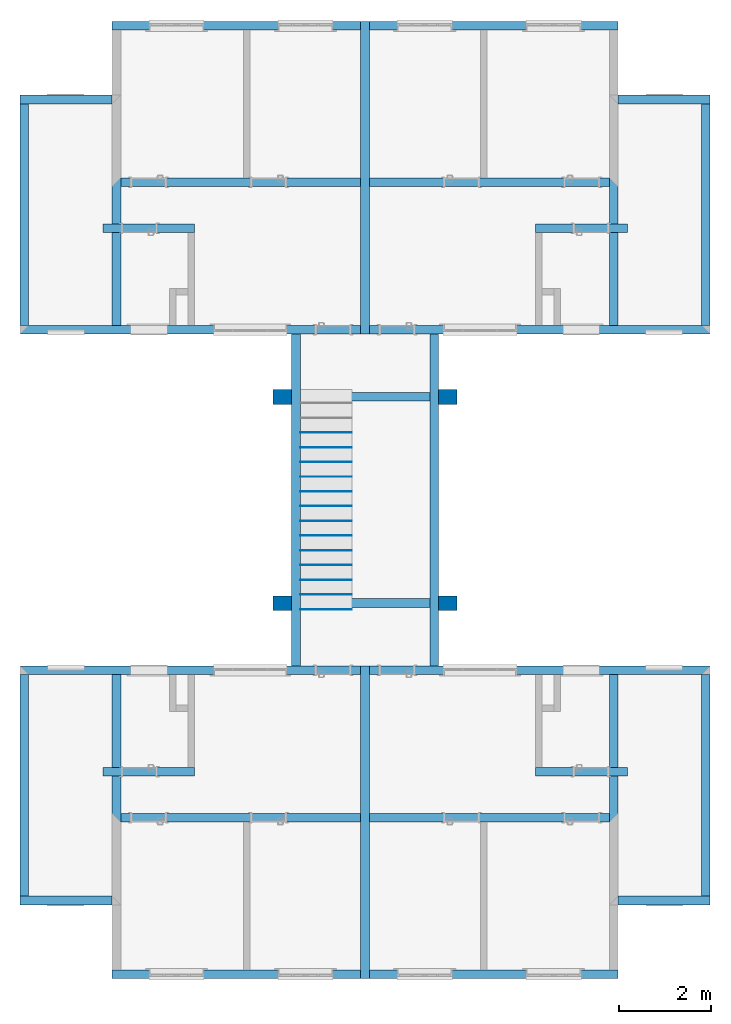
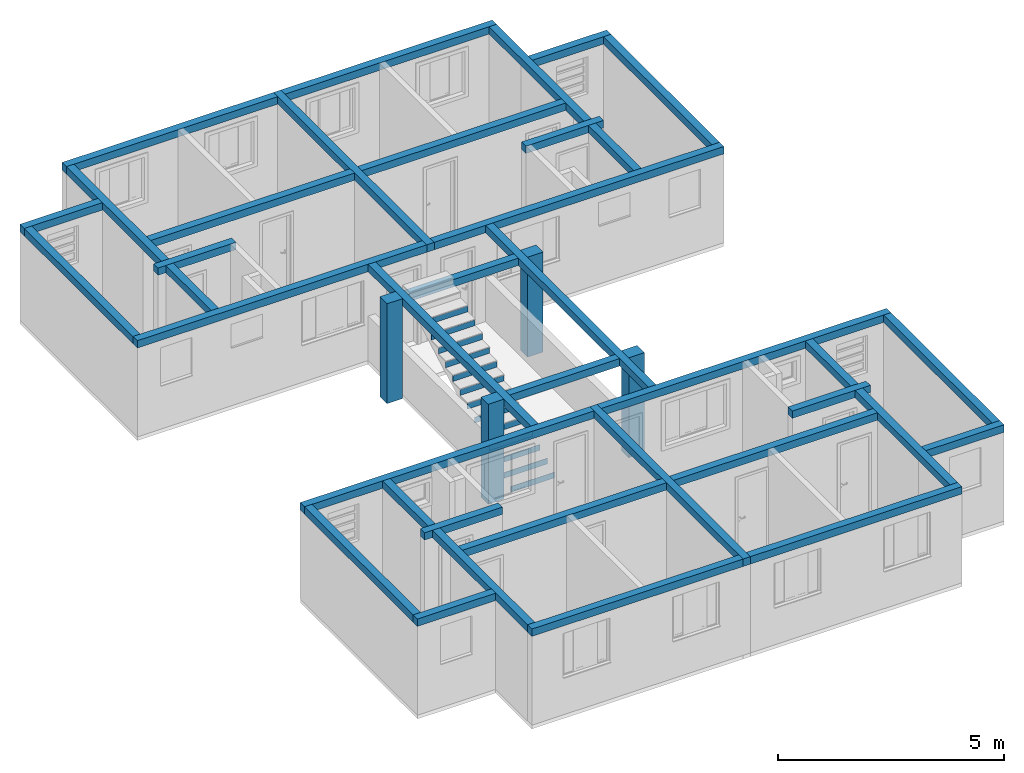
# One storey, part 1 of 47: 38 beams, 13 members, 4 columns, 1 element without a shape of its own.
"""IFC2X3 building model written with IfcOpenShell, lengths in millimetres."""

import ifcopenshell
import ifcopenshell.guid

model = None  # the IFC model being written
_history = None  # IfcOwnerHistory: only IFC2X3 demands one
_inside = {}  # id of a spatial element -> (the spatial element, [elements in it])
_under = {}  # id of a project, library or spatial element -> (it, [spatial elements below it])
_declared = {}  # id of a project -> (the project, [libraries it declares])
_typed = {}  # id of a type object -> (the type object, [elements of that type])
_made_of = {}  # id of a material, layer set ... -> (it, [elements and type objects made of it])


def new_model(schema):
    """Start an empty IFC model of exactly this schema.

    Asked for "IFC4X3", IfcOpenShell would pick the latest addendum, in which some entities
    have other attributes; the version numbers below select the first issue.
    IFC2X3 requires an IfcOwnerHistory on every rooted entity: one is made here for all.
    """
    global model, _history
    if schema == "IFC4X3":
        model = ifcopenshell.file(schema_version=(4, 3, 0, 0))
    else:
        model = ifcopenshell.file(schema=schema)
    _inside.clear()
    _under.clear()
    _declared.clear()
    _typed.clear()
    _made_of.clear()
    _history = None
    if model.schema == "IFC2X3":
        org = make("IfcOrganization", Name="unknown")
        user = make(
            "IfcPersonAndOrganization",
            ThePerson=make("IfcPerson", FamilyName="unknown"),
            TheOrganization=org,
        )
        app = make(
            "IfcApplication",
            ApplicationDeveloper=org,
            Version="unknown",
            ApplicationFullName="unknown",
            ApplicationIdentifier="unknown",
        )
        _history = make(
            "IfcOwnerHistory",
            OwningUser=user,
            OwningApplication=app,
            ChangeAction="ADDED",
            CreationDate=0,
        )
    return model


def make(cls, **values):
    """One entity of the class cls with the attributes given. An attribute that is None is left unset."""
    return model.create_entity(
        cls, **{name: value for name, value in values.items() if value is not None}
    )


def entity(cls, *values):
    """Any entity or typed value of the class cls, its attributes in the order of the schema. None: left unset."""
    e = model.create_entity(cls)
    for i, value in enumerate(values):
        if value is not None:
            e[i] = value
    return e


def rooted(cls, **values):
    """An entity with a GlobalId (a new one), such as an element, a storey or a relation."""
    return make(cls, GlobalId=ifcopenshell.guid.new(), OwnerHistory=_history, **values)


def si_unit(unit_type, name, prefix=None):
    """IfcSIUnit, for example si_unit("LENGTHUNIT", "METRE", prefix="MILLI")."""
    return make("IfcSIUnit", UnitType=unit_type, Prefix=prefix, Name=name)


def converted_unit(unit_type, name, factor, base, dimensions=None, offset=None):
    """IfcConversionBasedUnit, such as the inch: factor (a typed value) times the base unit."""
    return make(
        "IfcConversionBasedUnit"
        if offset is None
        else "IfcConversionBasedUnitWithOffset",
        ConversionOffset=offset,
        Dimensions=None
        if dimensions is None
        else entity("IfcDimensionalExponents", *dimensions),
        UnitType=unit_type,
        Name=name,
        ConversionFactor=make(
            "IfcMeasureWithUnit", ValueComponent=factor, UnitComponent=base
        ),
    )


def derived_unit(unit_type, elements):
    """IfcDerivedUnit: a product of units, each with its exponent."""
    return make(
        "IfcDerivedUnit",
        Elements=[
            make("IfcDerivedUnitElement", Unit=unit, Exponent=power)
            for unit, power in elements
        ],
        UnitType=unit_type,
    )


def money_unit(currency):
    """IfcMonetaryUnit."""
    return make("IfcMonetaryUnit", Currency=currency)


def assignment(units):
    """IfcUnitAssignment: the units of a project."""
    return None if units is None else make("IfcUnitAssignment", Units=units)


def point(xyz):
    """IfcCartesianPoint."""
    return None if xyz is None else make("IfcCartesianPoint", Coordinates=xyz)


def direction(xyz):
    """IfcDirection."""
    return None if xyz is None else make("IfcDirection", DirectionRatios=xyz)


def frame(location, z_axis=None, x_axis=None):
    """IfcAxis2Placement3D, a coordinate frame: its origin and axes. An axis left out is left unset."""
    return make(
        "IfcAxis2Placement3D",
        Location=point(location),
        Axis=direction(z_axis),
        RefDirection=direction(x_axis),
    )


def frame_2d(location, x_axis=None):
    """IfcAxis2Placement2D, a coordinate frame in the plane: its origin and x axis."""
    return make(
        "IfcAxis2Placement2D", Location=point(location), RefDirection=direction(x_axis)
    )


def origin_with_axes():
    """The frame at (0, 0, 0) with the z axis (0, 0, 1) and the x axis (1, 0, 0) written out."""
    return frame((0.0, 0.0, 0.0), z_axis=(0.0, 0.0, 1.0), x_axis=(1.0, 0.0, 0.0))


def origin_2d_with_axis():
    """The frame at (0, 0) in the plane with the x axis (1, 0) written out."""
    return frame_2d((0.0, 0.0), x_axis=(1.0, 0.0))


def place(relative_to, where):
    """IfcLocalPlacement: puts the frame where relative to a parent placement (None: the world)."""
    return make(
        "IfcLocalPlacement", PlacementRelTo=relative_to, RelativePlacement=where
    )


def context(
    kind, dimensions, precision=None, world=None, true_north=None, identifier=None
):
    """IfcGeometricRepresentationContext, for example the 3D "Model" context."""
    return make(
        "IfcGeometricRepresentationContext",
        ContextIdentifier=identifier,
        ContextType=kind,
        CoordinateSpaceDimension=dimensions,
        Precision=precision,
        WorldCoordinateSystem=world,
        TrueNorth=true_north,
    )


def subcontext(parent, identifier, kind, view, scale=None):
    """IfcGeometricRepresentationSubContext, for example "Body" below "Model"."""
    return make(
        "IfcGeometricRepresentationSubContext",
        ContextIdentifier=identifier,
        ContextType=kind,
        ParentContext=parent,
        TargetScale=scale,
        TargetView=view,
    )


def project(units=None, contexts=None):
    """IfcProject with its units and contexts."""
    return rooted(
        "IfcProject",
        Name="project",
        RepresentationContexts=contexts,
        UnitsInContext=assignment(units),
    )


def spatial(cls, under=None, at=None, **own):
    """A site, building, storey or space (cls), placed at a placement, below another one or the project."""
    s = rooted(cls, ObjectPlacement=at, **own)
    if under is not None:
        _under.setdefault(under.id(), (under, []))[1].append(s)
    return s


def profile(cls, at=None, kind="AREA", **sizes):
    """A parametric profile (cls). Its sizes go by their IFC names, for example OverallWidth=200.0."""
    return make(cls, ProfileType=kind, Position=at, **sizes)


def rectangle(**sizes):
    """IfcRectangleProfileDef."""
    return profile("IfcRectangleProfileDef", **sizes)


def extrude(swept, where, along, depth):
    """IfcExtrudedAreaSolid: the profile swept, set in the frame where, extruded along a direction by depth."""
    return make(
        "IfcExtrudedAreaSolid",
        SweptArea=swept,
        Position=where,
        ExtrudedDirection=direction(along),
        Depth=depth,
    )


def faces_of(points, faces, orient=None, outer=None):
    """IfcFace entities. A face is a list of loops; a loop is a list of indices into points, from 0.

    orient and outer hold one flag for each loop. By default every Orientation is true, the
    first loop of a face is its IfcFaceOuterBound and the others are IfcFaceBound.
    """
    made = []
    for i, loops in enumerate(faces):
        bounds = []
        for j, loop in enumerate(loops):
            is_outer = j == 0 if outer is None else outer[i][j]
            bounds.append(
                make(
                    "IfcFaceOuterBound" if is_outer else "IfcFaceBound",
                    Bound=make("IfcPolyLoop", Polygon=[points[k] for k in loop]),
                    Orientation=True if orient is None else orient[i][j],
                )
            )
        made.append(make("IfcFace", Bounds=bounds))
    return made


def faceted_brep(points, faces, orient=None, outer=None, voids=None):
    """IfcFacetedBrep: a solid bounded by flat faces; with voids (closed shells), ...WithVoids."""
    shared = [point(p) for p in points]
    hull = make("IfcClosedShell", CfsFaces=faces_of(shared, faces, orient, outer))
    if voids is None:
        return make("IfcFacetedBrep", Outer=hull)
    return make(
        "IfcFacetedBrepWithVoids",
        Outer=hull,
        Voids=[
            make(cls, CfsFaces=faces_of(shared, fs, o, b)) for cls, fs, o, b in voids
        ],
    )


def shape(context_of_items, identifier, shape_type, items):
    """IfcShapeRepresentation: the items that make up one representation, for example the "Body"."""
    return make(
        "IfcShapeRepresentation",
        ContextOfItems=context_of_items,
        RepresentationIdentifier=identifier,
        RepresentationType=shape_type,
        Items=items,
    )


def material(Name=None, Category=None):
    """IfcMaterial."""
    return make("IfcMaterial", Name=Name, Category=Category)


def made_of(thing, what):
    """Note that an element or type object is made of a material, layer set ...; save() writes the relation."""
    if what is not None:
        _made_of.setdefault(what.id(), (what, []))[1].append(thing)
    return thing


def type_object(cls, material=None, **own):
    """A type object (cls), such as IfcWallType, which elements share."""
    return made_of(rooted(cls, **own), material)


def element(
    cls,
    number,
    at=None,
    inside=None,
    cuts=None,
    type_object=None,
    material=None,
    context=None,
    identifier="Body",
    shape_type=None,
    held_by="IfcProductDefinitionShape",
    body=None,
    shapes=None,
    **own,
):
    """One element of the class cls, such as IfcWall. Its Tag is "e" and its number.

    at: its placement. inside: the storey or other place that contains it. cuts: it is an
    opening in that element (IfcRelVoidsElement). A single representation is given by context,
    identifier, shape_type and body (its items); several are given by shapes. held_by: the class
    of the entity that holds the representations. save() writes the other relations.
    """
    e = rooted(cls, Tag="e%d" % number, ObjectPlacement=at, **own)
    if body is not None:
        shapes = [shape(context, identifier, shape_type, body)]
    if shapes is not None:
        e.Representation = make(held_by, Representations=shapes)
    if inside is not None:
        _inside.setdefault(inside.id(), (inside, []))[1].append(e)
    if cuts is not None:
        rooted(
            "IfcRelVoidsElement", RelatingBuildingElement=cuts, RelatedOpeningElement=e
        )
    if type_object is not None:
        _typed.setdefault(type_object.id(), (type_object, []))[1].append(e)
    return made_of(e, material)


def aggregate(whole, parts):
    """IfcRelAggregates: a whole, such as a stair, and the parts it consists of."""
    return rooted("IfcRelAggregates", RelatingObject=whole, RelatedObjects=parts)


def save(model, path):
    """Write the relations noted so far, then the file.

    IfcRelAggregates (storeys below a building ...), IfcRelContainedInSpatialStructure (elements
    in a storey), IfcRelDefinesByType, IfcRelAssociatesMaterial and IfcRelDeclares: one each for
    every whole, place, type object, material and project.
    """
    for whole, parts in _under.values():
        aggregate(whole, parts)
    for where, things in _inside.values():
        rooted(
            "IfcRelContainedInSpatialStructure",
            RelatedElements=things,
            RelatingStructure=where,
        )
    for kind, things in _typed.values():
        rooted("IfcRelDefinesByType", RelatedObjects=things, RelatingType=kind)
    for what, things in _made_of.values():
        rooted("IfcRelAssociatesMaterial", RelatedObjects=things, RelatingMaterial=what)
    for by, libraries in _declared.values():
        rooted("IfcRelDeclares", RelatingContext=by, RelatedDefinitions=libraries)
    model.write(path)


model = new_model("IFC2X3")

# Units and contexts
model_context = context("Model", 3, precision=0.01, world=origin_with_axes(), true_north=direction((0.0, 1.0)))
body_context = subcontext(model_context, "Body", "Model", "MODEL_VIEW")
ifc_project = project(units=[si_unit("LENGTHUNIT", "METRE", prefix="MILLI"), si_unit("AREAUNIT", "SQUARE_METRE"), si_unit("VOLUMEUNIT", "CUBIC_METRE"), converted_unit("PLANEANGLEUNIT", "DEGREE", entity("IfcPlaneAngleMeasure", 0.0174532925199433), si_unit("PLANEANGLEUNIT", "RADIAN"), dimensions=[0, 0, 0, 0, 0, 0, 0]), money_unit("USD"), converted_unit("TIMEUNIT", "Year", entity("IfcTimeMeasure", 31557600.0), si_unit("TIMEUNIT", "SECOND"), dimensions=[0, 0, 1, 0, 0, 0, 0]), si_unit("MASSUNIT", "GRAM", prefix="KILO"), si_unit("THERMODYNAMICTEMPERATUREUNIT", "DEGREE_CELSIUS"), si_unit("LUMINOUSINTENSITYUNIT", "LUMEN"), si_unit("ENERGYUNIT", "JOULE", prefix="MEGA"), derived_unit("THERMALCONDUCTANCEUNIT", [(si_unit("POWERUNIT", "WATT"), 1), (si_unit("LENGTHUNIT", "METRE"), -1), (si_unit("THERMODYNAMICTEMPERATUREUNIT", "KELVIN"), -1)]), derived_unit("SPECIFICHEATCAPACITYUNIT", [(si_unit("ENERGYUNIT", "JOULE"), 1), (si_unit("MASSUNIT", "GRAM", prefix="KILO"), -1), (si_unit("THERMODYNAMICTEMPERATUREUNIT", "KELVIN"), -1)]), derived_unit("MASSDENSITYUNIT", [(si_unit("MASSUNIT", "GRAM", prefix="KILO"), 1), (si_unit("VOLUMEUNIT", "CUBIC_METRE"), -1)])], contexts=[model_context])

# Site, building, storey
site_placement = place(None, origin_with_axes())
site = spatial("IfcSite", under=ifc_project, at=site_placement, Name="Local", CompositionType="ELEMENT")
building_placement = place(site_placement, origin_with_axes())
building = spatial("IfcBuilding", under=site, at=building_placement, Name="Construção", CompositionType="ELEMENT")
storey_placement = place(building_placement, origin_with_axes())
storey = spatial("IfcBuildingStorey", under=building, at=storey_placement, Name="Pavimento Tipo", CompositionType="ELEMENT", Elevation=0.0)

# Columns
ifc_material_1 = material(Name="Concreto Armado - Estrutural")
column_type = type_object("IfcColumnType", Name="Concreto Armado - Estrutural 400 x 320", PredefinedType="COLUMN")
column_1_placement = place(storey_placement, frame((2742.566997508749, 11026.98141771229, -100.0000000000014), z_axis=(0.0, 0.0, 1.0), x_axis=(1.0, 0.0, 0.0)))
element("IfcColumn", 1, at=column_1_placement, inside=storey, type_object=column_type, material=ifc_material_1, Name="Núcleo - P01", ObjectType="COLUMN", context=body_context, shape_type="SweptSolid", body=[
    extrude(rectangle(XDim=400.0, YDim=320.0, at=origin_2d_with_axis()), origin_with_axes(), (0.0, 0.0, 1.0), 2700.000000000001),
])
column_2_placement = place(storey_placement, frame((-847.4330024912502, 11026.98141771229, -100.0000000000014), z_axis=(0.0, 0.0, 1.0), x_axis=(1.0, 0.0, 0.0)))
element("IfcColumn", 2, at=column_2_placement, inside=storey, type_object=column_type, material=ifc_material_1, Name="Núcleo - P02", ObjectType="COLUMN", context=body_context, shape_type="SweptSolid", body=[
    extrude(rectangle(XDim=400.0, YDim=320.0, at=origin_2d_with_axis()), origin_with_axes(), (0.0, 0.0, 1.0), 2699.999999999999),
])
for number, where, z_axis, x_axis, name in (
    (3, (2742.566997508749, 6546.981417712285, -99.99999999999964), (0.0, 0.0, 1.0), (1.0, 0.0, 0.0), "Núcleo - P03"),
    (4, (-847.4330024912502, 6546.981417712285, -100.0000000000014), (0.0, 0.0, 1.0), (1.0, 0.0, 0.0), "Núcleo - P04"),
):
    element("IfcColumn", number, at=place(storey_placement, frame(where, z_axis=z_axis, x_axis=x_axis)), inside=storey, type_object=column_type, material=ifc_material_1, Name=name, ObjectType="COLUMN", context=body_context, shape_type="SweptSolid", body=[
        extrude(rectangle(XDim=400.0, YDim=320.0, at=origin_2d_with_axis()), origin_with_axes(), (0.0, 0.0, 1.0), 2702.182591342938),
    ])

# Beams
ifc_material_2 = material(Name="Concreto - Estrutural")
beam_type = type_object("IfcBeamType", Name="Concreto - Estrutural 190 x 200", PredefinedType="BEAM")
beam_1_placement = place(storey_placement, frame((8252.56699750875, 17396.98141771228, 2600.0), z_axis=(0.0, 0.0, 1.0), x_axis=(-1.0, 0.0, 0.0)))
element("IfcBeam", 5, at=beam_1_placement, inside=storey, type_object=beam_type, material=ifc_material_2, Name="Apartamento 1 - V06", ObjectType="BEAM", context=body_context, shape_type="SweptSolid", body=[
    extrude(rectangle(XDim=200.0, YDim=190.0, at=frame_2d((-100.0, -95.0), x_axis=(1.0, 0.0))), frame((0.0, 0.0, 0.0), z_axis=(0.0, 1.0, 0.0), x_axis=(0.0, 0.0, 1.0)), (0.0, 0.0, 1.0), 4809.999999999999),
])
beam_2_placement = place(storey_placement, frame((6252.566997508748, 15786.98141771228, 2600.0), z_axis=(0.0, 0.0, 1.0), x_axis=(0.0, 1.0, 0.0)))
element("IfcBeam", 6, at=beam_2_placement, inside=storey, type_object=beam_type, material=ifc_material_2, Name="Apartamento 1 - V07", ObjectType="BEAM", context=body_context, shape_type="SweptSolid", body=[
    extrude(rectangle(XDim=200.0, YDim=190.0, at=frame_2d((-100.0, -95.0), x_axis=(1.0, 0.0))), frame((0.0, 0.0, 0.0), z_axis=(0.0, 1.0, 0.0), x_axis=(0.0, 0.0, 1.0)), (0.0, 0.0, 1.0), 5209.999999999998),
])
beam_3_placement = place(storey_placement, frame((6442.566997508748, 17396.98141771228, 2600.0), z_axis=(0.0, 0.0, 1.0), x_axis=(0.0, -1.0, 0.0)))
element("IfcBeam", 7, at=beam_3_placement, inside=storey, type_object=beam_type, material=ifc_material_2, Name="Apartamento 1 - V05", ObjectType="BEAM", context=body_context, shape_type="SweptSolid", body=[
    extrude(rectangle(XDim=200.0, YDim=190.0, at=frame_2d((-100.0, -95.0), x_axis=(1.0, 0.0))), frame((0.0, 0.0, 0.0), z_axis=(0.0, 1.0, 0.0), x_axis=(0.0, 0.0, 1.0)), (0.0, 0.0, 1.0), 2000.0),
])
beam_4_placement = place(storey_placement, frame((1042.56699750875, 12396.98141771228, 2600.0), z_axis=(0.0, 0.0, 1.0), x_axis=(0.0, -1.0, 0.0)))
element("IfcBeam", 8, at=beam_4_placement, inside=storey, type_object=beam_type, material=ifc_material_2, Name="Apartamento 1 - V04", ObjectType="BEAM", context=body_context, shape_type="SweptSolid", body=[
    extrude(rectangle(XDim=200.0, YDim=190.0, at=frame_2d((-100.0, -95.0), x_axis=(1.0, 0.0))), frame((0.0, 0.0, 0.0), z_axis=(0.0, 1.0, 0.0), x_axis=(0.0, 0.0, 1.0)), (0.0, 0.0, 1.0), 7399.999999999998),
])
beam_5_placement = place(storey_placement, frame((4652.56699750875, 14596.98141771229, 2600.0), z_axis=(0.0, 0.0, 1.0), x_axis=(0.0, -1.0, 0.0)))
element("IfcBeam", 9, at=beam_5_placement, inside=storey, type_object=beam_type, material=ifc_material_2, Name="Apartamento 1 - V03", ObjectType="BEAM", context=body_context, shape_type="SweptSolid", body=[
    extrude(rectangle(XDim=200.0, YDim=190.0, at=frame_2d((-100.0, -95.0), x_axis=(1.0, 0.0))), frame((0.0, 0.0, 0.0), z_axis=(0.0, 1.0, 0.0), x_axis=(0.0, 0.0, 1.0)), (0.0, 0.0, 1.0), 1990.000000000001),
])
beam_6_placement = place(storey_placement, frame((6252.566997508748, 18996.98141771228, 2600.0), z_axis=(0.0, 0.0, 1.0), x_axis=(-1.0, 0.0, 0.0)))
element("IfcBeam", 10, at=beam_6_placement, inside=storey, type_object=beam_type, material=ifc_material_2, Name="Apartamento 1 - V02", ObjectType="BEAM", context=body_context, shape_type="SweptSolid", body=[
    extrude(rectangle(XDim=200.0, YDim=190.0, at=frame_2d((-100.0, -95.0), x_axis=(1.0, 0.0))), frame((0.0, 0.0, 0.0), z_axis=(0.0, 1.0, 0.0), x_axis=(0.0, 0.0, 1.0)), (0.0, 0.0, 1.0), 4209.999999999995),
])
beam_7_placement = place(storey_placement, frame((1042.56699750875, 18996.98141771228, 2600.0), z_axis=(0.0, 0.0, 1.0), x_axis=(0.0, -1.0, 0.0)))
element("IfcBeam", 11, at=beam_7_placement, inside=storey, type_object=beam_type, material=ifc_material_2, Name="Apartamento 1 - V01", ObjectType="BEAM", context=body_context, shape_type="SweptSolid", body=[
    extrude(rectangle(XDim=200.0, YDim=190.0, at=frame_2d((-100.0, -95.0), x_axis=(1.0, 0.0))), frame((0.0, 0.0, 0.0), z_axis=(0.0, 1.0, 0.0), x_axis=(0.0, 0.0, 1.0)), (0.0, 0.0, 1.0), 5399.999999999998),
])
beam_8_placement = place(storey_placement, frame((6252.566997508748, 14596.98141771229, 2600.0), z_axis=(0.0, 0.0, 1.0), x_axis=(-1.0, 0.0, 0.0)))
element("IfcBeam", 12, at=beam_8_placement, inside=storey, type_object=beam_type, material=ifc_material_2, Name="Apartamento 1 - V09", ObjectType="BEAM", context=body_context, shape_type="SweptSolid", body=[
    extrude(rectangle(XDim=200.0, YDim=190.0, at=frame_2d((-100.0, -95.0), x_axis=(1.0, 0.0))), frame((0.0, 0.0, 0.0), z_axis=(0.0, 1.0, 0.0), x_axis=(0.0, 0.0, 1.0)), (0.0, 0.0, 1.0), 2010.000000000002),
])
beam_9_placement = place(storey_placement, frame((852.5669975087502, 19186.98141771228, 2600.0), z_axis=(0.0, 0.0, 1.0), x_axis=(-1.0, 0.0, 0.0)))
element("IfcBeam", 13, at=beam_9_placement, inside=storey, type_object=beam_type, material=ifc_material_2, Name="Apartamentos 1 e 2 - V08", ObjectType="BEAM", context=body_context, shape_type="SweptSolid", body=[
    extrude(rectangle(XDim=200.0, YDim=190.0, at=frame_2d((-100.0, -95.0), x_axis=(1.0, 0.0))), frame((0.0, 0.0, 0.0), z_axis=(0.0, 1.0, 0.0), x_axis=(0.0, 0.0, 1.0)), (0.0, 0.0, 1.0), 6789.999999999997),
])
beam_10_placement = place(storey_placement, frame((-6357.433002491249, 17396.98141771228, 2600.0), z_axis=(0.0, 0.0, 1.0), x_axis=(-1.0, 0.0, 0.0)))
element("IfcBeam", 14, at=beam_10_placement, inside=storey, type_object=beam_type, material=ifc_material_2, Name="Apartamento 2 - V06", ObjectType="BEAM", context=body_context, shape_type="SweptSolid", body=[
    extrude(rectangle(XDim=200.0, YDim=190.0, at=frame_2d((-100.0, 95.0), x_axis=(1.0, 0.0))), frame((0.0, 0.0, 0.0), z_axis=(0.0, 1.0, 0.0), x_axis=(0.0, 0.0, 1.0)), (0.0, 0.0, 1.0), 4809.999999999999),
])
beam_11_placement = place(storey_placement, frame((-4357.433002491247, 15786.98141771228, 2600.0), z_axis=(0.0, 0.0, 1.0), x_axis=(0.0, -1.0, 0.0)))
element("IfcBeam", 15, at=beam_11_placement, inside=storey, type_object=beam_type, material=ifc_material_2, Name="Apartamento 2 - V07", ObjectType="BEAM", context=body_context, shape_type="SweptSolid", body=[
    extrude(rectangle(XDim=200.0, YDim=190.0, at=frame_2d((-100.0, 95.0), x_axis=(1.0, 0.0))), frame((0.0, 0.0, 0.0), z_axis=(0.0, 1.0, 0.0), x_axis=(0.0, 0.0, 1.0)), (0.0, 0.0, 1.0), 5209.999999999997),
])
beam_12_placement = place(storey_placement, frame((-4547.433002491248, 17396.98141771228, 2600.0), z_axis=(0.0, 0.0, 1.0), x_axis=(0.0, 1.0, 0.0)))
element("IfcBeam", 16, at=beam_12_placement, inside=storey, type_object=beam_type, material=ifc_material_2, Name="Apartamento 2 - V05", ObjectType="BEAM", context=body_context, shape_type="SweptSolid", body=[
    extrude(rectangle(XDim=200.0, YDim=190.0, at=frame_2d((-100.0, 95.0), x_axis=(1.0, 0.0))), frame((0.0, 0.0, 0.0), z_axis=(0.0, 1.0, 0.0), x_axis=(0.0, 0.0, 1.0)), (0.0, 0.0, 1.0), 2000.0),
])
beam_13_placement = place(storey_placement, frame((852.5669975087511, 12396.98141771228, 2600.0), z_axis=(0.0, 0.0, 1.0), x_axis=(0.0, 1.0, 0.0)))
element("IfcBeam", 17, at=beam_13_placement, inside=storey, type_object=beam_type, material=ifc_material_2, Name="Apartamento 2 - V04", ObjectType="BEAM", context=body_context, shape_type="SweptSolid", body=[
    extrude(rectangle(XDim=200.0, YDim=190.0, at=frame_2d((-100.0, 95.0), x_axis=(1.0, 0.0))), frame((0.0, 0.0, 0.0), z_axis=(0.0, 1.0, 0.0), x_axis=(0.0, 0.0, 1.0)), (0.0, 0.0, 1.0), 7399.999999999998),
])
beam_14_placement = place(storey_placement, frame((-2757.433002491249, 14596.98141771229, 2600.0), z_axis=(0.0, 0.0, 1.0), x_axis=(0.0, 1.0, 0.0)))
element("IfcBeam", 18, at=beam_14_placement, inside=storey, type_object=beam_type, material=ifc_material_2, Name="Apartamento 2 - V03", ObjectType="BEAM", context=body_context, shape_type="SweptSolid", body=[
    extrude(rectangle(XDim=200.0, YDim=190.0, at=frame_2d((-100.0, 95.0), x_axis=(1.0, 0.0))), frame((0.0, 0.0, 0.0), z_axis=(0.0, 1.0, 0.0), x_axis=(0.0, 0.0, 1.0)), (0.0, 0.0, 1.0), 1990.000000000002),
])
beam_15_placement = place(storey_placement, frame((-4357.433002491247, 18996.98141771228, 2600.0), z_axis=(0.0, 0.0, 1.0), x_axis=(-1.0, 0.0, 0.0)))
element("IfcBeam", 19, at=beam_15_placement, inside=storey, type_object=beam_type, material=ifc_material_2, Name="Apartamento 2 - V02", ObjectType="BEAM", context=body_context, shape_type="SweptSolid", body=[
    extrude(rectangle(XDim=200.0, YDim=190.0, at=frame_2d((-100.0, 95.0), x_axis=(1.0, 0.0))), frame((0.0, 0.0, 0.0), z_axis=(0.0, 1.0, 0.0), x_axis=(0.0, 0.0, 1.0)), (0.0, 0.0, 1.0), 4209.999999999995),
])
beam_16_placement = place(storey_placement, frame((852.5669975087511, 18996.98141771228, 2600.0), z_axis=(0.0, 0.0, 1.0), x_axis=(0.0, 1.0, 0.0)))
element("IfcBeam", 20, at=beam_16_placement, inside=storey, type_object=beam_type, material=ifc_material_2, Name="Apartamento 2 - V01", ObjectType="BEAM", context=body_context, shape_type="SweptSolid", body=[
    extrude(rectangle(XDim=200.0, YDim=190.0, at=frame_2d((-100.0, 95.0), x_axis=(1.0, 0.0))), frame((0.0, 0.0, 0.0), z_axis=(0.0, 1.0, 0.0), x_axis=(0.0, 0.0, 1.0)), (0.0, 0.0, 1.0), 5399.999999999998),
])
beam_17_placement = place(storey_placement, frame((-4357.433002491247, 14596.98141771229, 2600.0), z_axis=(0.0, 0.0, 1.0), x_axis=(-1.0, 0.0, 0.0)))
element("IfcBeam", 21, at=beam_17_placement, inside=storey, type_object=beam_type, material=ifc_material_2, Name="Apartamento 2 - V09", ObjectType="BEAM", context=body_context, shape_type="SweptSolid", body=[
    extrude(rectangle(XDim=200.0, YDim=190.0, at=frame_2d((-100.0, 95.0), x_axis=(1.0, 0.0))), frame((0.0, 0.0, 0.0), z_axis=(0.0, 1.0, 0.0), x_axis=(0.0, 0.0, 1.0)), (0.0, 0.0, 1.0), 2010.000000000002),
])
beam_18_placement = place(storey_placement, frame((-6357.433002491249, 186.9814177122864, 2600.0), z_axis=(0.0, 0.0, 1.0), x_axis=(1.0, 0.0, 0.0)))
element("IfcBeam", 22, at=beam_18_placement, inside=storey, type_object=beam_type, material=ifc_material_2, Name="Apartamento 3 - V06", ObjectType="BEAM", context=body_context, shape_type="SweptSolid", body=[
    extrude(rectangle(XDim=200.0, YDim=190.0, at=frame_2d((-100.0, -95.0), x_axis=(1.0, 0.0))), frame((0.0, 0.0, 0.0), z_axis=(0.0, 1.0, 0.0), x_axis=(0.0, 0.0, 1.0)), (0.0, 0.0, 1.0), 4810.000000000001),
])
beam_19_placement = place(storey_placement, frame((-4357.433002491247, 1796.981417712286, 2600.0), z_axis=(0.0, 0.0, 1.0), x_axis=(0.0, -1.0, 0.0)))
element("IfcBeam", 23, at=beam_19_placement, inside=storey, type_object=beam_type, material=ifc_material_2, Name="Apartamento 3 - V07", ObjectType="BEAM", context=body_context, shape_type="SweptSolid", body=[
    extrude(rectangle(XDim=200.0, YDim=190.0, at=frame_2d((-100.0, -95.0), x_axis=(1.0, 0.0))), frame((0.0, 0.0, 0.0), z_axis=(0.0, 1.0, 0.0), x_axis=(0.0, 0.0, 1.0)), (0.0, 0.0, 1.0), 5209.999999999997),
])
beam_20_placement = place(storey_placement, frame((-4547.433002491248, 186.9814177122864, 2600.0), z_axis=(0.0, 0.0, 1.0), x_axis=(0.0, 1.0, 0.0)))
element("IfcBeam", 24, at=beam_20_placement, inside=storey, type_object=beam_type, material=ifc_material_2, Name="Apartamento 3 - V05", ObjectType="BEAM", context=body_context, shape_type="SweptSolid", body=[
    extrude(rectangle(XDim=200.0, YDim=190.0, at=frame_2d((-100.0, -95.0), x_axis=(1.0, 0.0))), frame((0.0, 0.0, 0.0), z_axis=(0.0, 1.0, 0.0), x_axis=(0.0, 0.0, 1.0)), (0.0, 0.0, 1.0), 2000.0),
])
beam_21_placement = place(storey_placement, frame((852.5669975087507, 5186.981417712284, 2600.0), z_axis=(0.0, 0.0, 1.0), x_axis=(0.0, 1.0, 0.0)))
element("IfcBeam", 25, at=beam_21_placement, inside=storey, type_object=beam_type, material=ifc_material_2, Name="Apartamento 3 - V04", ObjectType="BEAM", context=body_context, shape_type="SweptSolid", body=[
    extrude(rectangle(XDim=200.0, YDim=190.0, at=frame_2d((-100.0, -95.0), x_axis=(1.0, 0.0))), frame((0.0, 0.0, 0.0), z_axis=(0.0, 1.0, 0.0), x_axis=(0.0, 0.0, 1.0)), (0.0, 0.0, 1.0), 7399.999999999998),
])
beam_22_placement = place(storey_placement, frame((-2757.433002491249, 2986.981417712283, 2600.0), z_axis=(0.0, 0.0, 1.0), x_axis=(0.0, 1.0, 0.0)))
element("IfcBeam", 26, at=beam_22_placement, inside=storey, type_object=beam_type, material=ifc_material_2, Name="Apartamento 3 - V03", ObjectType="BEAM", context=body_context, shape_type="SweptSolid", body=[
    extrude(rectangle(XDim=200.0, YDim=190.0, at=frame_2d((-100.0, -95.0), x_axis=(1.0, 0.0))), frame((0.0, 0.0, 0.0), z_axis=(0.0, 1.0, 0.0), x_axis=(0.0, 0.0, 1.0)), (0.0, 0.0, 1.0), 1990.000000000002),
])
beam_23_placement = place(storey_placement, frame((-4357.433002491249, -1413.018582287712, 2600.0), z_axis=(0.0, 0.0, 1.0), x_axis=(1.0, 0.0, 0.0)))
element("IfcBeam", 27, at=beam_23_placement, inside=storey, type_object=beam_type, material=ifc_material_2, Name="Apartamento 3 - V02", ObjectType="BEAM", context=body_context, shape_type="SweptSolid", body=[
    extrude(rectangle(XDim=200.0, YDim=190.0, at=frame_2d((-100.0, -95.0), x_axis=(1.0, 0.0))), frame((0.0, 0.0, 0.0), z_axis=(0.0, 1.0, 0.0), x_axis=(0.0, 0.0, 1.0)), (0.0, 0.0, 1.0), 4209.999999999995),
])
beam_24_placement = place(storey_placement, frame((852.5669975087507, -1413.018582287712, 2600.0), z_axis=(0.0, 0.0, 1.0), x_axis=(0.0, 1.0, 0.0)))
element("IfcBeam", 28, at=beam_24_placement, inside=storey, type_object=beam_type, material=ifc_material_2, Name="Apartamento 3 - V01", ObjectType="BEAM", context=body_context, shape_type="SweptSolid", body=[
    extrude(rectangle(XDim=200.0, YDim=190.0, at=frame_2d((-100.0, -95.0), x_axis=(1.0, 0.0))), frame((0.0, 0.0, 0.0), z_axis=(0.0, 1.0, 0.0), x_axis=(0.0, 0.0, 1.0)), (0.0, 0.0, 1.0), 5399.999999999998),
])
beam_25_placement = place(storey_placement, frame((-4357.433002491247, 2986.981417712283, 2600.0), z_axis=(0.0, 0.0, 1.0), x_axis=(1.0, 0.0, 0.0)))
element("IfcBeam", 29, at=beam_25_placement, inside=storey, type_object=beam_type, material=ifc_material_2, Name="Apartamento 3 - V09", ObjectType="BEAM", context=body_context, shape_type="SweptSolid", body=[
    extrude(rectangle(XDim=200.0, YDim=190.0, at=frame_2d((-100.0, -95.0), x_axis=(1.0, 0.0))), frame((0.0, 0.0, 0.0), z_axis=(0.0, 1.0, 0.0), x_axis=(0.0, 0.0, 1.0)), (0.0, 0.0, 1.0), 2010.000000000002),
])
beam_26_placement = place(storey_placement, frame((1042.56699750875, -1603.018582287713, 2600.0), z_axis=(0.0, 0.0, 1.0), x_axis=(1.0, 0.0, 0.0)))
element("IfcBeam", 30, at=beam_26_placement, inside=storey, type_object=beam_type, material=ifc_material_2, Name="Apartamentos 3 e 4 - V08", ObjectType="BEAM", context=body_context, shape_type="SweptSolid", body=[
    extrude(rectangle(XDim=200.0, YDim=190.0, at=frame_2d((-100.0, -95.0), x_axis=(1.0, 0.0))), frame((0.0, 0.0, 0.0), z_axis=(0.0, 1.0, 0.0), x_axis=(0.0, 0.0, 1.0)), (0.0, 0.0, 1.0), 6789.999999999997),
])
beam_27_placement = place(storey_placement, frame((8252.566997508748, 186.9814177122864, 2600.0), z_axis=(0.0, 0.0, 1.0), x_axis=(1.0, 0.0, 0.0)))
element("IfcBeam", 31, at=beam_27_placement, inside=storey, type_object=beam_type, material=ifc_material_2, Name="Apartamento 4 - V06", ObjectType="BEAM", context=body_context, shape_type="SweptSolid", body=[
    extrude(rectangle(XDim=200.0, YDim=190.0, at=frame_2d((-100.0, 95.0), x_axis=(1.0, 0.0))), frame((0.0, 0.0, 0.0), z_axis=(0.0, 1.0, 0.0), x_axis=(0.0, 0.0, 1.0)), (0.0, 0.0, 1.0), 4809.999999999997),
])
beam_28_placement = place(storey_placement, frame((6252.566997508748, 1796.981417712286, 2600.0), z_axis=(0.0, 0.0, 1.0), x_axis=(0.0, 1.0, 0.0)))
element("IfcBeam", 32, at=beam_28_placement, inside=storey, type_object=beam_type, material=ifc_material_2, Name="Apartamento 4 - V07", ObjectType="BEAM", context=body_context, shape_type="SweptSolid", body=[
    extrude(rectangle(XDim=200.0, YDim=190.0, at=frame_2d((-100.0, 95.0), x_axis=(1.0, 0.0))), frame((0.0, 0.0, 0.0), z_axis=(0.0, 1.0, 0.0), x_axis=(0.0, 0.0, 1.0)), (0.0, 0.0, 1.0), 5209.999999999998),
])
beam_29_placement = place(storey_placement, frame((6442.566997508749, 186.9814177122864, 2600.0), z_axis=(0.0, 0.0, 1.0), x_axis=(0.0, -1.0, 0.0)))
element("IfcBeam", 33, at=beam_29_placement, inside=storey, type_object=beam_type, material=ifc_material_2, Name="Apartamento 4 - V05", ObjectType="BEAM", context=body_context, shape_type="SweptSolid", body=[
    extrude(rectangle(XDim=200.0, YDim=190.0, at=frame_2d((-100.0, 95.0), x_axis=(1.0, 0.0))), frame((0.0, 0.0, 0.0), z_axis=(0.0, 1.0, 0.0), x_axis=(0.0, 0.0, 1.0)), (0.0, 0.0, 1.0), 1999.999999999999),
])
beam_30_placement = place(storey_placement, frame((1042.56699750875, 5186.981417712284, 2600.0), z_axis=(0.0, 0.0, 1.0), x_axis=(0.0, -1.0, 0.0)))
element("IfcBeam", 34, at=beam_30_placement, inside=storey, type_object=beam_type, material=ifc_material_2, Name="Apartamento 4 - V04", ObjectType="BEAM", context=body_context, shape_type="SweptSolid", body=[
    extrude(rectangle(XDim=200.0, YDim=190.0, at=frame_2d((-100.0, 95.0), x_axis=(1.0, 0.0))), frame((0.0, 0.0, 0.0), z_axis=(0.0, 1.0, 0.0), x_axis=(0.0, 0.0, 1.0)), (0.0, 0.0, 1.0), 7399.999999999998),
])
beam_31_placement = place(storey_placement, frame((6252.566997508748, -1413.018582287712, 2600.0), z_axis=(0.0, 0.0, 1.0), x_axis=(1.0, 0.0, 0.0)))
element("IfcBeam", 35, at=beam_31_placement, inside=storey, type_object=beam_type, material=ifc_material_2, Name="Apartamento 4 - V02", ObjectType="BEAM", context=body_context, shape_type="SweptSolid", body=[
    extrude(rectangle(XDim=200.0, YDim=190.0, at=frame_2d((-100.0, 95.0), x_axis=(1.0, 0.0))), frame((0.0, 0.0, 0.0), z_axis=(0.0, 1.0, 0.0), x_axis=(0.0, 0.0, 1.0)), (0.0, 0.0, 1.0), 4209.999999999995),
])
beam_32_placement = place(storey_placement, frame((1042.566997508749, -1413.018582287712, 2600.0), z_axis=(0.0, 0.0, 1.0), x_axis=(0.0, -1.0, 0.0)))
element("IfcBeam", 36, at=beam_32_placement, inside=storey, type_object=beam_type, material=ifc_material_2, Name="Apartamento 4 - V01", ObjectType="BEAM", context=body_context, shape_type="SweptSolid", body=[
    extrude(rectangle(XDim=200.0, YDim=190.0, at=frame_2d((-100.0, 95.0), x_axis=(1.0, 0.0))), frame((0.0, 0.0, 0.0), z_axis=(0.0, 1.0, 0.0), x_axis=(0.0, 0.0, 1.0)), (0.0, 0.0, 1.0), 5399.999999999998),
])
beam_33_placement = place(storey_placement, frame((6252.566997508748, 2986.981417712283, 2600.0), z_axis=(0.0, 0.0, 1.0), x_axis=(1.0, 0.0, 0.0)))
element("IfcBeam", 37, at=beam_33_placement, inside=storey, type_object=beam_type, material=ifc_material_2, Name="Apartamento 4 - V09", ObjectType="BEAM", context=body_context, shape_type="SweptSolid", body=[
    extrude(rectangle(XDim=200.0, YDim=190.0, at=frame_2d((-100.0, 95.0), x_axis=(1.0, 0.0))), frame((0.0, 0.0, 0.0), z_axis=(0.0, 1.0, 0.0), x_axis=(0.0, 0.0, 1.0)), (0.0, 0.0, 1.0), 2010.000000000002),
])
beam_34_placement = place(storey_placement, frame((4652.56699750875, 2986.981417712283, 2600.0), z_axis=(0.0, 0.0, 1.0), x_axis=(0.0, -1.0, 0.0)))
element("IfcBeam", 38, at=beam_34_placement, inside=storey, type_object=beam_type, material=ifc_material_2, Name="Apartamento 4 - V03", ObjectType="BEAM", context=body_context, shape_type="SweptSolid", body=[
    extrude(rectangle(XDim=200.0, YDim=190.0, at=frame_2d((-100.0, 95.0), x_axis=(1.0, 0.0))), frame((0.0, 0.0, 0.0), z_axis=(0.0, 1.0, 0.0), x_axis=(0.0, 0.0, 1.0)), (0.0, 0.0, 1.0), 1990.000000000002),
])
for number, where, z_axis, x_axis in (
    (39, (2352.56699750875, 12396.98141771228, 2600.0), (0.0, 0.0, 1.0), (-1.0, 0.0, 0.0)),
    (40, (-647.4330024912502, 12396.98141771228, 2600.0), (0.0, 0.0, 1.0), (-1.0, 0.0, 0.0)),
):
    element("IfcBeam", number, at=place(storey_placement, frame(where, z_axis=z_axis, x_axis=x_axis)), inside=storey, type_object=beam_type, material=ifc_material_2, Name="Núcleo - V03", ObjectType="BEAM", context=body_context, shape_type="SweptSolid", body=[
        extrude(rectangle(XDim=200.0, YDim=190.0, at=frame_2d((-100.0, -95.0), x_axis=(1.0, 0.0))), frame((0.0, 0.0, 0.0), z_axis=(0.0, 1.0, 0.0), x_axis=(0.0, 0.0, 1.0)), (0.0, 0.0, 1.0), 7210.0),
    ])
for number, where, z_axis, x_axis in (
    (41, (-457.4330024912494, 6651.981417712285, 2600.0), (0.0, 0.0, 1.0), (0.0, -1.0, 0.0)),
    (42, (-457.4330024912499, 11131.98141771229, 2600.0), (0.0, 0.0, 1.0), (0.0, -1.0, 0.0)),
):
    element("IfcBeam", number, at=place(storey_placement, frame(where, z_axis=z_axis, x_axis=x_axis)), inside=storey, type_object=beam_type, material=ifc_material_2, Name="Núcleo - V03", ObjectType="BEAM", context=body_context, shape_type="SweptSolid", body=[
        extrude(rectangle(XDim=200.0, YDim=190.0, at=frame_2d((-100.0, 95.0), x_axis=(1.0, 0.0))), frame((0.0, 0.0, 0.0), z_axis=(0.0, 1.0, 0.0), x_axis=(0.0, 0.0, 1.0)), (0.0, 0.0, 1.0), 2810.0),
    ])

# Stair, members
stair_placement = place(storey_placement, frame((-457.4330024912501, 6396.981417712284, 0.0), z_axis=(0.0, 0.0, 1.0), x_axis=(1.0, 0.0, 0.0)))
stair = element("IfcStair", 43, at=stair_placement, inside=storey, Name="Núcleo - Escada - 001", ShapeType="NOTDEFINED")
ifc_material_3 = material(Name="Madeira")
member_type = type_object("IfcMemberType", Name="IfcMember", PredefinedType="USERDEFINED")
member_1_placement = place(stair_placement, frame((560.0, 0.0, 155.0), z_axis=(0.0, 0.0, 1.0), x_axis=(1.0, 0.0, 0.0)))
member_1 = element("IfcMember", 44, at=member_1_placement, type_object=member_type, material=ifc_material_3, Name="Núcleo - Espelho Esc. - 017", ObjectType="Stair Riser", context=body_context, shape_type="Brep", body=[
    faceted_brep([(560.0, 15.0, 0.0), (560.0, 25.0, 0.0), (-560.0, 25.0, 0.0), (-560.0, 15.0, 0.0), (560.0, 15.00000000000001, -155.0), (560.0, 25.00000000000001, -155.0), (-560.0, 25.00000000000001, -155.0), (-560.0, 15.00000000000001, -155.0)], [[[0, 1, 2, 3]], [[0, 4, 5, 1]], [[1, 5, 6, 2]], [[3, 2, 6, 7]], [[4, 0, 3, 7]], [[5, 4, 7, 6]]]),
])
member_2_placement = place(stair_placement, frame((560.0, 320.0000000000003, 335.0), z_axis=(0.0, 0.0, 1.0), x_axis=(1.0, 0.0, 0.0)))
member_2 = element("IfcMember", 45, at=member_2_placement, type_object=member_type, material=ifc_material_3, Name="Núcleo - Espelho Esc. - 017", ObjectType="Stair Riser", context=body_context, shape_type="Brep", body=[
    faceted_brep([(560.0, 15.0, 0.0), (560.0, 25.0, 0.0), (-560.0, 25.0, 0.0), (-560.0, 15.0, 0.0), (560.0, 15.00000000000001, -155.0), (560.0, 25.00000000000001, -155.0), (-560.0, 25.00000000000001, -155.0), (-560.0, 15.00000000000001, -155.0)], [[[0, 1, 2, 3]], [[0, 4, 5, 1]], [[1, 5, 6, 2]], [[3, 2, 6, 7]], [[4, 0, 3, 7]], [[5, 4, 7, 6]]]),
])
member_3_placement = place(stair_placement, frame((560.0, 639.9999999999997, 515.0), z_axis=(0.0, 0.0, 1.0), x_axis=(1.0, 0.0, 0.0)))
member_3 = element("IfcMember", 46, at=member_3_placement, type_object=member_type, material=ifc_material_3, Name="Núcleo - Espelho Esc. - 017", ObjectType="Stair Riser", context=body_context, shape_type="Brep", body=[
    faceted_brep([(560.0, 15.0, 0.0), (560.0, 25.0, 0.0), (-560.0, 25.0, 0.0), (-560.0, 15.0, 0.0), (560.0, 15.00000000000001, -155.0), (560.0, 25.00000000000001, -155.0), (-560.0, 25.00000000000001, -155.0), (-560.0, 15.00000000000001, -155.0)], [[[0, 1, 2, 3]], [[0, 4, 5, 1]], [[1, 5, 6, 2]], [[3, 2, 6, 7]], [[4, 0, 3, 7]], [[5, 4, 7, 6]]]),
])
member_4_placement = place(stair_placement, frame((560.0, 960.0, 695.0000000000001), z_axis=(0.0, 0.0, 1.0), x_axis=(1.0, 0.0, 0.0)))
member_4 = element("IfcMember", 47, at=member_4_placement, type_object=member_type, material=ifc_material_3, Name="Núcleo - Espelho Esc. - 017", ObjectType="Stair Riser", context=body_context, shape_type="Brep", body=[
    faceted_brep([(560.0, 15.0, 0.0), (560.0, 25.0, 0.0), (-560.0, 25.0, 0.0), (-560.0, 15.0, 0.0), (560.0, 15.00000000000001, -155.0), (560.0, 25.00000000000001, -155.0), (-560.0, 25.00000000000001, -155.0), (-560.0, 15.00000000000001, -155.0)], [[[0, 1, 2, 3]], [[0, 4, 5, 1]], [[1, 5, 6, 2]], [[3, 2, 6, 7]], [[4, 0, 3, 7]], [[5, 4, 7, 6]]]),
])
member_5_placement = place(stair_placement, frame((560.0000000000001, 1280.0, 875.0000000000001), z_axis=(0.0, 0.0, 1.0), x_axis=(1.0, 0.0, 0.0)))
member_5 = element("IfcMember", 48, at=member_5_placement, type_object=member_type, material=ifc_material_3, Name="Núcleo - Espelho Esc. - 017", ObjectType="Stair Riser", context=body_context, shape_type="Brep", body=[
    faceted_brep([(560.0, 15.0, 0.0), (560.0, 25.0, 0.0), (-560.0, 25.0, 0.0), (-560.0, 15.0, 0.0), (560.0, 15.00000000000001, -155.0), (560.0, 25.00000000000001, -155.0), (-560.0, 25.00000000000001, -155.0), (-560.0, 15.00000000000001, -155.0)], [[[0, 1, 2, 3]], [[0, 4, 5, 1]], [[1, 5, 6, 2]], [[3, 2, 6, 7]], [[4, 0, 3, 7]], [[5, 4, 7, 6]]]),
])
member_6_placement = place(stair_placement, frame((560.0000000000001, 1600.0, 1055.0), z_axis=(0.0, 0.0, 1.0), x_axis=(1.0, 0.0, 0.0)))
member_6 = element("IfcMember", 49, at=member_6_placement, type_object=member_type, material=ifc_material_3, Name="Núcleo - Espelho Esc. - 017", ObjectType="Stair Riser", context=body_context, shape_type="Brep", body=[
    faceted_brep([(560.0, 15.0, 0.0), (560.0, 25.0, 0.0), (-560.0, 25.0, 0.0), (-560.0, 15.0, 0.0), (560.0, 15.00000000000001, -155.0), (560.0, 25.00000000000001, -155.0), (-560.0, 25.00000000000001, -155.0), (-560.0, 15.00000000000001, -155.0)], [[[0, 1, 2, 3]], [[0, 4, 5, 1]], [[1, 5, 6, 2]], [[3, 2, 6, 7]], [[4, 0, 3, 7]], [[5, 4, 7, 6]]]),
])
member_7_placement = place(stair_placement, frame((560.0000000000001, 1920.0, 1235.0), z_axis=(0.0, 0.0, 1.0), x_axis=(1.0, 0.0, 0.0)))
member_7 = element("IfcMember", 50, at=member_7_placement, type_object=member_type, material=ifc_material_3, Name="Núcleo - Espelho Esc. - 017", ObjectType="Stair Riser", context=body_context, shape_type="Brep", body=[
    faceted_brep([(560.0, 15.0, 0.0), (560.0, 25.0, 0.0), (-560.0, 25.0, 0.0), (-560.0, 15.0, 0.0), (560.0, 15.00000000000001, -155.0), (560.0, 25.00000000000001, -155.0), (-560.0, 25.00000000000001, -155.0), (-560.0, 15.00000000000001, -155.0)], [[[0, 1, 2, 3]], [[0, 4, 5, 1]], [[1, 5, 6, 2]], [[3, 2, 6, 7]], [[4, 0, 3, 7]], [[5, 4, 7, 6]]]),
])
member_8_placement = place(stair_placement, frame((560.0000000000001, 2240.0, 1415.0), z_axis=(0.0, 0.0, 1.0), x_axis=(1.0, 0.0, 0.0)))
member_8 = element("IfcMember", 51, at=member_8_placement, type_object=member_type, material=ifc_material_3, Name="Núcleo - Espelho Esc. - 017", ObjectType="Stair Riser", context=body_context, shape_type="Brep", body=[
    faceted_brep([(560.0, 15.0, 0.0), (560.0, 25.0, 0.0), (-560.0, 25.0, 0.0), (-560.0, 15.0, 0.0), (560.0, 15.00000000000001, -155.0), (560.0, 25.00000000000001, -155.0), (-560.0, 25.00000000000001, -155.0), (-560.0, 15.00000000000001, -155.0)], [[[0, 1, 2, 3]], [[0, 4, 5, 1]], [[1, 5, 6, 2]], [[3, 2, 6, 7]], [[4, 0, 3, 7]], [[5, 4, 7, 6]]]),
])
member_9_placement = place(stair_placement, frame((560.0000000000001, 2560.0, 1595.0), z_axis=(0.0, 0.0, 1.0), x_axis=(1.0, 0.0, 0.0)))
member_9 = element("IfcMember", 52, at=member_9_placement, type_object=member_type, material=ifc_material_3, Name="Núcleo - Espelho Esc. - 017", ObjectType="Stair Riser", context=body_context, shape_type="Brep", body=[
    faceted_brep([(560.0, 15.0, 0.0), (560.0, 25.0, 0.0), (-560.0, 25.0, 0.0), (-560.0, 15.0, 0.0), (560.0, 15.00000000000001, -155.0), (560.0, 25.00000000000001, -155.0), (-560.0, 25.00000000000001, -155.0), (-560.0, 15.00000000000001, -155.0)], [[[0, 1, 2, 3]], [[0, 4, 5, 1]], [[1, 5, 6, 2]], [[3, 2, 6, 7]], [[4, 0, 3, 7]], [[5, 4, 7, 6]]]),
])
member_10_placement = place(stair_placement, frame((560.0000000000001, 2880.000000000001, 1775.0), z_axis=(0.0, 0.0, 1.0), x_axis=(1.0, 0.0, 0.0)))
member_10 = element("IfcMember", 53, at=member_10_placement, type_object=member_type, material=ifc_material_3, Name="Núcleo - Espelho Esc. - 017", ObjectType="Stair Riser", context=body_context, shape_type="Brep", body=[
    faceted_brep([(560.0, 15.0, 0.0), (560.0, 25.0, 0.0), (-560.0, 25.0, 0.0), (-560.0, 15.0, 0.0), (560.0, 15.00000000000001, -155.0), (560.0, 25.00000000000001, -155.0), (-560.0, 25.00000000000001, -155.0), (-560.0, 15.00000000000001, -155.0)], [[[0, 1, 2, 3]], [[0, 4, 5, 1]], [[1, 5, 6, 2]], [[3, 2, 6, 7]], [[4, 0, 3, 7]], [[5, 4, 7, 6]]]),
])
member_11_placement = place(stair_placement, frame((560.0000000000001, 3200.000000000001, 1955.0), z_axis=(0.0, 0.0, 1.0), x_axis=(1.0, 0.0, 0.0)))
member_11 = element("IfcMember", 54, at=member_11_placement, type_object=member_type, material=ifc_material_3, Name="Núcleo - Espelho Esc. - 017", ObjectType="Stair Riser", context=body_context, shape_type="Brep", body=[
    faceted_brep([(560.0, 15.0, 0.0), (560.0, 25.0, 0.0), (-560.0, 25.0, 0.0), (-560.0, 15.0, 0.0), (560.0, 15.00000000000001, -155.0), (560.0, 25.00000000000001, -155.0), (-560.0, 25.00000000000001, -155.0), (-560.0, 15.00000000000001, -155.0)], [[[0, 1, 2, 3]], [[0, 4, 5, 1]], [[1, 5, 6, 2]], [[3, 2, 6, 7]], [[4, 0, 3, 7]], [[5, 4, 7, 6]]]),
])
member_12_placement = place(stair_placement, frame((560.0000000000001, 3520.0, 2135.0), z_axis=(0.0, 0.0, 1.0), x_axis=(1.0, 0.0, 0.0)))
member_12 = element("IfcMember", 55, at=member_12_placement, type_object=member_type, material=ifc_material_3, Name="Núcleo - Espelho Esc. - 017", ObjectType="Stair Riser", context=body_context, shape_type="Brep", body=[
    faceted_brep([(560.0, 15.0, 0.0), (560.0, 25.0, 0.0), (-560.0, 25.0, 0.0), (-560.0, 15.0, 0.0), (560.0, 15.00000000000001, -155.0), (560.0, 25.00000000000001, -155.0), (-560.0, 25.00000000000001, -155.0), (-560.0, 15.00000000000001, -155.0)], [[[0, 1, 2, 3]], [[0, 4, 5, 1]], [[1, 5, 6, 2]], [[3, 2, 6, 7]], [[4, 0, 3, 7]], [[5, 4, 7, 6]]]),
])
member_13_placement = place(stair_placement, frame((560.0000000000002, 3840.0, 2315.0), z_axis=(0.0, 0.0, 1.0), x_axis=(1.0, 0.0, 0.0)))
member_13 = element("IfcMember", 56, at=member_13_placement, type_object=member_type, material=ifc_material_3, Name="Núcleo - Espelho Esc. - 017", ObjectType="Stair Riser", context=body_context, shape_type="Brep", body=[
    faceted_brep([(560.0, 15.0, 0.0), (560.0, 25.0, 0.0), (-560.0, 25.0, 0.0), (-560.0, 15.0, 0.0), (560.0, 15.00000000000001, -155.0), (560.0, 25.00000000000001, -155.0), (-560.0, 25.00000000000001, -155.0), (-560.0, 15.00000000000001, -155.0)], [[[0, 1, 2, 3]], [[0, 4, 5, 1]], [[1, 5, 6, 2]], [[3, 2, 6, 7]], [[4, 0, 3, 7]], [[5, 4, 7, 6]]]),
])
aggregate(stair, [member_1, member_2, member_3, member_4, member_5, member_6, member_7, member_8, member_9, member_10, member_11, member_12, member_13])

save(model, "model.ifc")
